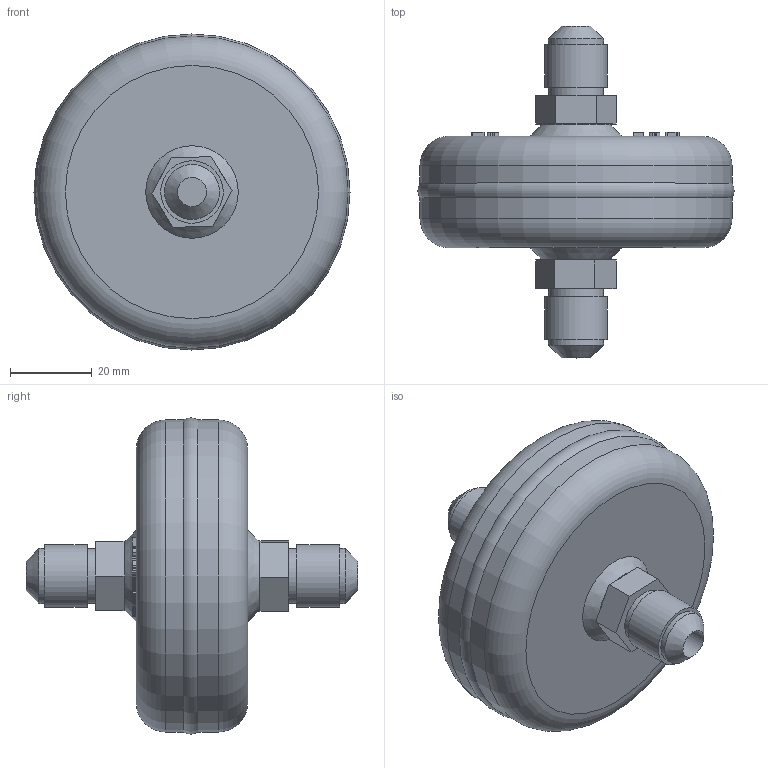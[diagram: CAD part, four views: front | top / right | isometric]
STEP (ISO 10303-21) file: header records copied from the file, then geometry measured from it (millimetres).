
FILE_DESCRIPTION(/* description */ (''),/* implementation_level */ '2;1');
FILE_NAME(/* name */ 'P:\F\F-10B\F-10B.stp',/* time_stamp */ '2017-10-05T08:15:56+02:00',/* author */ ('neufeld'),/* organization */ (''),/* preprocessor_version */ 'ST-DEVELOPER v16.1',/* originating_system */ 'Autodesk Inventor 2016',/* authorisation */ '');
FILE_SCHEMA (('AUTOMOTIVE_DESIGN { 1 0 10303 214 3 1 1 }'));
Length unit declared in the file: millimetre
Products named in the file (2): F-10B; F-10B_1
Assembly tree (1 placements, depth 2):
  F-10B_1
    F-10B
Bounding box: 77.42 x 81.31 x 77.42 mm (x, y, z)
Volume: 130187.7 mm3; surface area: 17877.6 mm2
Topology: 1 solids, 1 shells, 704 faces, 1917 edges, 1271 vertices
Faces by surface type: plane 506, bspline 179, cylinder 12, cone 4, torus 3
Full cylindrical faces by diameter (mm): 7.2 x2, 13.5 x4, 15.312 x2, 17 x2, 76.434 x2
Entity records: 22675 total; most frequent: CARTESIAN_POINT 6125, ORIENTED_EDGE 3790, DIRECTION 2631, EDGE_CURVE 1895, LINE 1499, VECTOR 1499, VERTEX_POINT 1268, EDGE_LOOP 779
